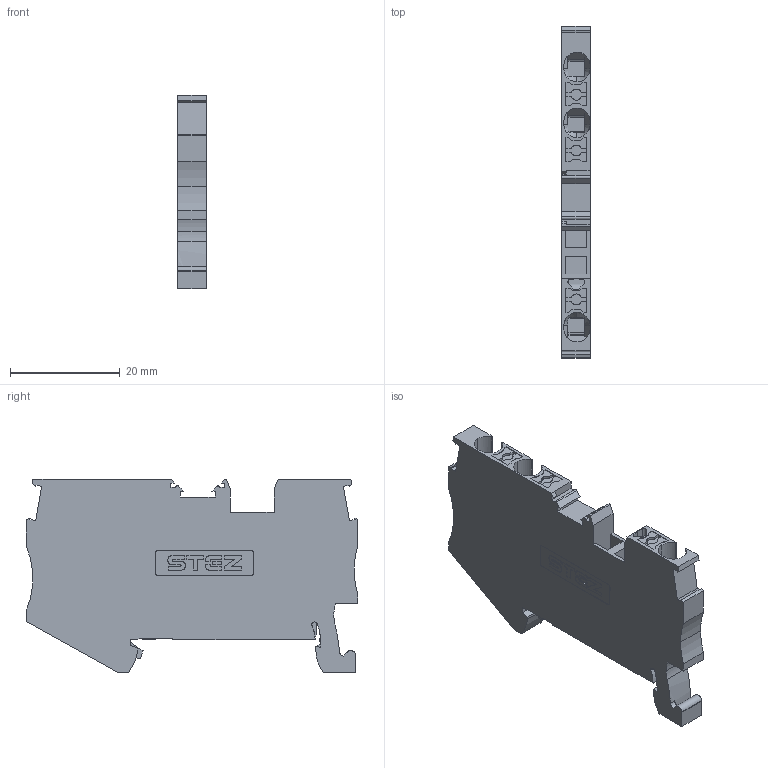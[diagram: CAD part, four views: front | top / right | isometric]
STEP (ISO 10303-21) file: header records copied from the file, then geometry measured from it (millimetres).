
FILE_DESCRIPTION(('TFLEX Exchange Step'),'2;1');
FILE_NAME('14000082_КНБ_2,5-3-PE.stp', '2025-06-24T10:55:25+03:00',('MVarava'),('Unknown organisation'),'TFLEX Exchange 2023.0','T-FLEX CAD','Unknown authorisation');
FILE_SCHEMA( ('AUTOMOTIVE_DESIGN { 1 0 10303 214 1 1 1 1 }') );
Length unit declared in the file: millimetre
Products named in the file (1): Nodes
Bounding box: 5.15 x 60.6 x 35.35 mm (x, y, z)
Volume: 7636.3 mm3; surface area: 5717.1 mm2
Topology: 1 solids, 1 shells, 487 faces, 1411 edges, 937 vertices
Faces by surface type: plane 262, cylinder 208, torus 6, cone 6, extrusion 5
Entity records: 17399 total; most frequent: CARTESIAN_POINT 4236, ORIENTED_EDGE 2822, DIRECTION 2643, EDGE_CURVE 1411, VERTEX_POINT 937, AXIS2_PLACEMENT_3D 892, VECTOR 859, LINE 854
